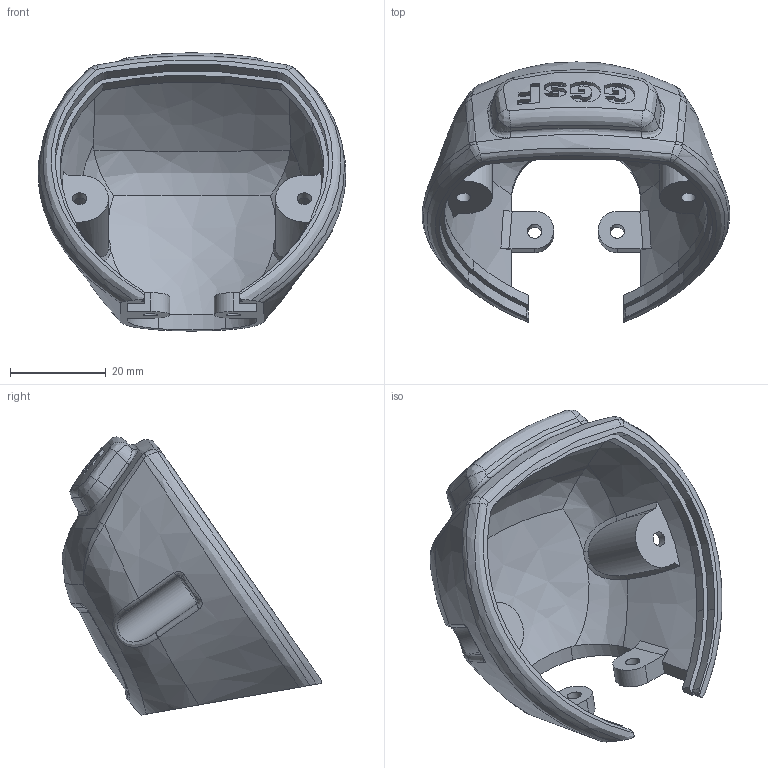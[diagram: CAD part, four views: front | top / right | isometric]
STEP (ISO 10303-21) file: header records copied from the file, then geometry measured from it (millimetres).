
FILE_DESCRIPTION(/* description */ (''),/* implementation_level */ '2;1');
FILE_NAME(/* name */ 'LAST_Grip 02.stp',/* time_stamp */ '2025-11-19T21:09:19+09:00',/* author */ (''),/* organization */ (''),/* preprocessor_version */ 'ST-DEVELOPER v11',/* originating_system */ 'SIEMENS PLM Software NX 7.5',/* authorisation */ '');
FILE_SCHEMA (('CONFIG_CONTROL_DESIGN'));
Length unit declared in the file: millimetre
Products named in the file (1): gyun8741ynv4
Bounding box: 64.32 x 54.34 x 58.15 mm (x, y, z)
Volume: 20943.5 mm3; surface area: 14216.3 mm2
Topology: 1 solids, 1 shells, 220 faces, 576 edges, 361 vertices
Faces by surface type: bspline 136, plane 52, cylinder 16, extrusion 14, torus 2
Full cylindrical faces by diameter (mm): 3.03 x2
Entity records: 11979 total; most frequent: CARTESIAN_POINT 7713, ORIENTED_EDGE 1140, EDGE_CURVE 570, DIRECTION 418, B_SPLINE_CURVE_WITH_KNOTS 404, VERTEX_POINT 361, EDGE_LOOP 237, ADVANCED_FACE 220
